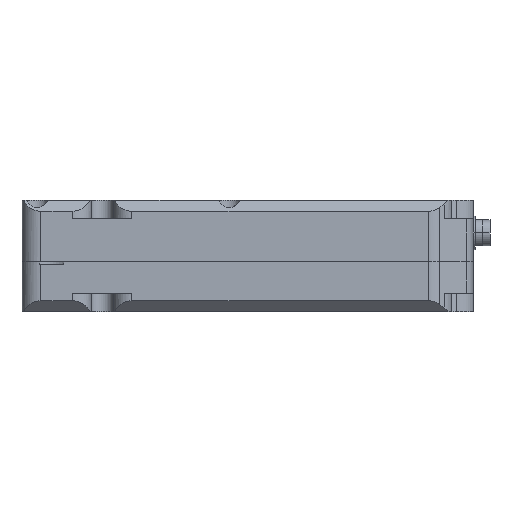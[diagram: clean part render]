
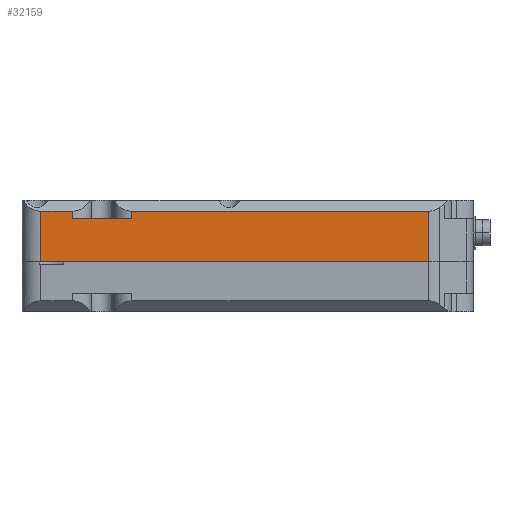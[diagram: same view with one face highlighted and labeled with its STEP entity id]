
A CAD part, front view. The second image highlights one B-rep face of the part: STEP entity #32159.
In plain terms, the highlighted planar face has unit normal (0, -1, 0).
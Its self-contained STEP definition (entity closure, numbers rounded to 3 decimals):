
#1404 = EDGE_CURVE ( 'NONE', #7496, #4721, #28390, .T. ) ;
#1487 = EDGE_CURVE ( 'NONE', #30907, #4669, #28608, .T. ) ;
#1488 = EDGE_CURVE ( 'NONE', #30885, #30907, #28614, .T. ) ;
#1489 = EDGE_CURVE ( 'NONE', #30885, #30910, #28612, .T. ) ;
#1490 = EDGE_CURVE ( 'NONE', #30910, #30911, #28620, .T. ) ;
#1491 = EDGE_CURVE ( 'NONE', #30911, #7496, #28624, .T. ) ;
#2911 = CARTESIAN_POINT ( 'NONE',  ( -84.563, 0., 12. ) ) ;
#2913 = CARTESIAN_POINT ( 'NONE',  ( -5., 0., 12. ) ) ;
#2945 = CARTESIAN_POINT ( 'NONE',  ( -5., 0., -1.5 ) ) ;
#4182 = CARTESIAN_POINT ( 'NONE',  ( 0., 0., 15. ) ) ;
#4185 = PLANE ( 'NONE',  #14530 ) ;
#4187 = DIRECTION ( 'NONE',  ( 0., 1., 0. ) ) ;
#4188 = DIRECTION ( 'NONE',  ( -1., 0., 0. ) ) ;
#4669 = VERTEX_POINT ( 'NONE', #2911 ) ;
#4672 = VERTEX_POINT ( 'NONE', #2913 ) ;
#4721 = VERTEX_POINT ( 'NONE', #2945 ) ;
#6519 = EDGE_CURVE ( 'NONE', #4672, #4669, #19076, .T. ) ;
#6591 = EDGE_CURVE ( 'NONE', #4721, #4672, #19185, .T. ) ;
#7272 = DIRECTION ( 'NONE',  ( 0., 0., 1. ) ) ;
#7273 = CARTESIAN_POINT ( 'NONE',  ( -100.437, 0., -7.814 ) ) ;
#7275 = CARTESIAN_POINT ( 'NONE',  ( -84.563, 0., -7.814 ) ) ;
#7281 = CARTESIAN_POINT ( 'NONE',  ( -100.437, 0., 10. ) ) ;
#7282 = DIRECTION ( 'NONE',  ( 1., 0., 0. ) ) ;
#7283 = DIRECTION ( 'NONE',  ( 0., 0., 1. ) ) ;
#7286 = CARTESIAN_POINT ( 'NONE',  ( -109., 0., 12. ) ) ;
#7287 = DIRECTION ( 'NONE',  ( -1., 0., 0. ) ) ;
#7288 = CARTESIAN_POINT ( 'NONE',  ( -109., 0., 15. ) ) ;
#7289 = DIRECTION ( 'NONE',  ( 0., 0., -1. ) ) ;
#7496 = VERTEX_POINT ( 'NONE', #25602 ) ;
#14530 = AXIS2_PLACEMENT_3D ( 'NONE', #4182, #4187, #4188 ) ;
#19076 = LINE ( 'NONE', #24562, #19079 ) ;
#19079 = VECTOR ( 'NONE', #24563, 1000. ) ;
#19185 = LINE ( 'NONE', #24792, #19187 ) ;
#19187 = VECTOR ( 'NONE', #24795, 1000. ) ;
#21225 = FACE_OUTER_BOUND ( 'NONE', #23307, .T. ) ;
#23307 = EDGE_LOOP ( 'NONE', ( #31352, #31353, #31354, #31355, #31356, #31357, #31358, #31359 ) ) ;
#23758 = CARTESIAN_POINT ( 'NONE',  ( -114., 0., -1.5 ) ) ;
#23760 = DIRECTION ( 'NONE',  ( 1., 0., 0. ) ) ;
#24562 = CARTESIAN_POINT ( 'NONE',  ( -109., 0., 12. ) ) ;
#24563 = DIRECTION ( 'NONE',  ( -1., 0., 0. ) ) ;
#24792 = CARTESIAN_POINT ( 'NONE',  ( -5., 0., 15. ) ) ;
#24795 = DIRECTION ( 'NONE',  ( 0., 0., 1. ) ) ;
#25602 = CARTESIAN_POINT ( 'NONE',  ( -109., 0., -1.5 ) ) ;
#28390 = LINE ( 'NONE', #23758, #28393 ) ;
#28393 = VECTOR ( 'NONE', #23760, 1000. ) ;
#28608 = LINE ( 'NONE', #7275, #28616 ) ;
#28612 = LINE ( 'NONE', #7273, #28622 ) ;
#28614 = LINE ( 'NONE', #7281, #28618 ) ;
#28616 = VECTOR ( 'NONE', #7272, 1000. ) ;
#28618 = VECTOR ( 'NONE', #7282, 1000. ) ;
#28620 = LINE ( 'NONE', #7286, #28626 ) ;
#28622 = VECTOR ( 'NONE', #7283, 1000. ) ;
#28624 = LINE ( 'NONE', #7288, #28629 ) ;
#28626 = VECTOR ( 'NONE', #7287, 1000. ) ;
#28629 = VECTOR ( 'NONE', #7289, 1000. ) ;
#29751 = CARTESIAN_POINT ( 'NONE',  ( -100.437, 0., 10. ) ) ;
#29772 = CARTESIAN_POINT ( 'NONE',  ( -84.563, 0., 10. ) ) ;
#29775 = CARTESIAN_POINT ( 'NONE',  ( -100.437, 0., 12. ) ) ;
#29776 = CARTESIAN_POINT ( 'NONE',  ( -109., 0., 12. ) ) ;
#30885 = VERTEX_POINT ( 'NONE', #29751 ) ;
#30907 = VERTEX_POINT ( 'NONE', #29772 ) ;
#30910 = VERTEX_POINT ( 'NONE', #29775 ) ;
#30911 = VERTEX_POINT ( 'NONE', #29776 ) ;
#31352 = ORIENTED_EDGE ( 'NONE', *, *, #6519, .T. ) ;
#31353 = ORIENTED_EDGE ( 'NONE', *, *, #1487, .F. ) ;
#31354 = ORIENTED_EDGE ( 'NONE', *, *, #1488, .F. ) ;
#31355 = ORIENTED_EDGE ( 'NONE', *, *, #1489, .T. ) ;
#31356 = ORIENTED_EDGE ( 'NONE', *, *, #1490, .T. ) ;
#31357 = ORIENTED_EDGE ( 'NONE', *, *, #1491, .T. ) ;
#31358 = ORIENTED_EDGE ( 'NONE', *, *, #1404, .T. ) ;
#31359 = ORIENTED_EDGE ( 'NONE', *, *, #6591, .T. ) ;
#32159 = ADVANCED_FACE ( 'NONE', ( #21225 ), #4185, .F. ) ;
